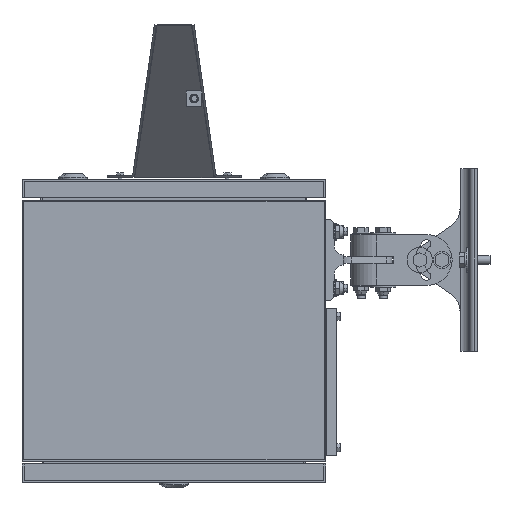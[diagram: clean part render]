
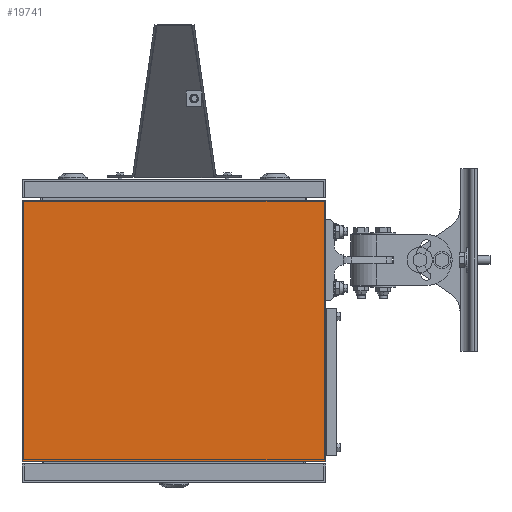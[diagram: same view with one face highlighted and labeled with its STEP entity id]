
A CAD part, left-side view. The second image highlights one B-rep face of the part: STEP entity #19741.
In plain terms, the highlighted planar face has unit normal (-1, 0, 0).
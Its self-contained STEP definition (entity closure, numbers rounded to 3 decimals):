
#2500=DIRECTION('',(0.,1.,0.));
#2501=VECTOR('',#2500,300.);
#2502=CARTESIAN_POINT('',(-136.5,-149.5,-14.));
#2503=LINE('',#2502,#2501);
#2528=DIRECTION('',(0.,0.,-1.));
#2529=VECTOR('',#2528,258.);
#2530=CARTESIAN_POINT('',(-136.5,150.5,-14.));
#2531=LINE('',#2530,#2529);
#2536=DIRECTION('',(0.,0.,1.));
#2537=VECTOR('',#2536,258.);
#2538=CARTESIAN_POINT('',(-136.5,-149.5,-272.));
#2539=LINE('',#2538,#2537);
#2688=DIRECTION('',(0.,1.,0.));
#2689=VECTOR('',#2688,300.);
#2690=CARTESIAN_POINT('',(-136.5,-149.5,-272.));
#2691=LINE('',#2690,#2689);
#12813=CARTESIAN_POINT('',(-136.5,-149.5,-14.));
#12814=VERTEX_POINT('',#12813);
#12815=CARTESIAN_POINT('',(-136.5,150.5,-14.));
#12816=VERTEX_POINT('',#12815);
#12849=CARTESIAN_POINT('',(-136.5,-149.5,-272.));
#12850=CARTESIAN_POINT('',(-136.5,150.5,-272.));
#12851=VERTEX_POINT('',#12849);
#12852=VERTEX_POINT('',#12850);
#19728=CARTESIAN_POINT('',(-136.5,-149.5,-14.));
#19729=DIRECTION('',(-1.,0.,0.));
#19730=DIRECTION('',(0.,1.,0.));
#19731=AXIS2_PLACEMENT_3D('',#19728,#19729,#19730);
#19732=PLANE('',#19731);
#19734=ORIENTED_EDGE('',*,*,#19733,.F.);
#19736=ORIENTED_EDGE('',*,*,#19735,.T.);
#19737=ORIENTED_EDGE('',*,*,#19719,.F.);
#19738=ORIENTED_EDGE('',*,*,#19683,.F.);
#19739=EDGE_LOOP('',(#19734,#19736,#19737,#19738));
#19740=FACE_OUTER_BOUND('',#19739,.F.);
#19741=ADVANCED_FACE('',(#19740),#19732,.T.);
#19683=EDGE_CURVE('',#12814,#12816,#2503,.T.);
#19719=EDGE_CURVE('',#12816,#12852,#2531,.T.);
#19733=EDGE_CURVE('',#12851,#12814,#2539,.T.);
#19735=EDGE_CURVE('',#12851,#12852,#2691,.T.);
